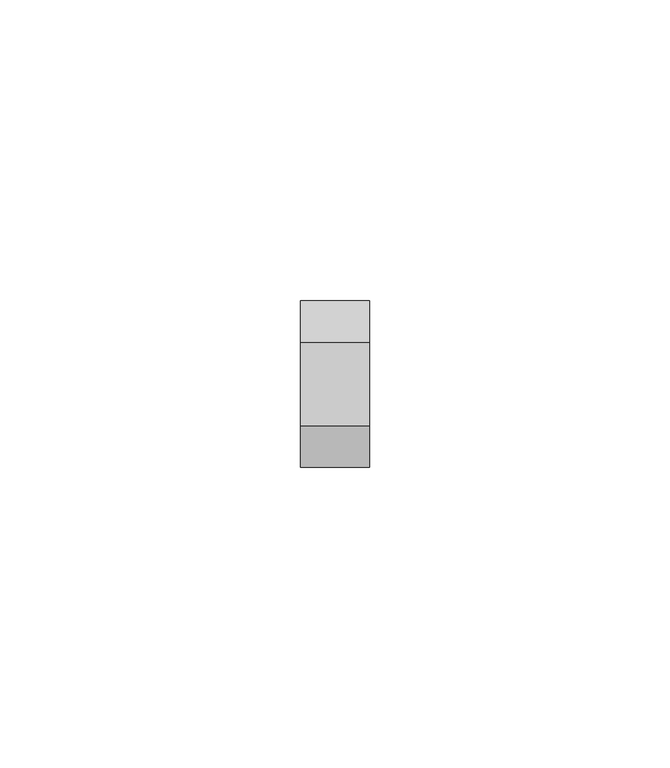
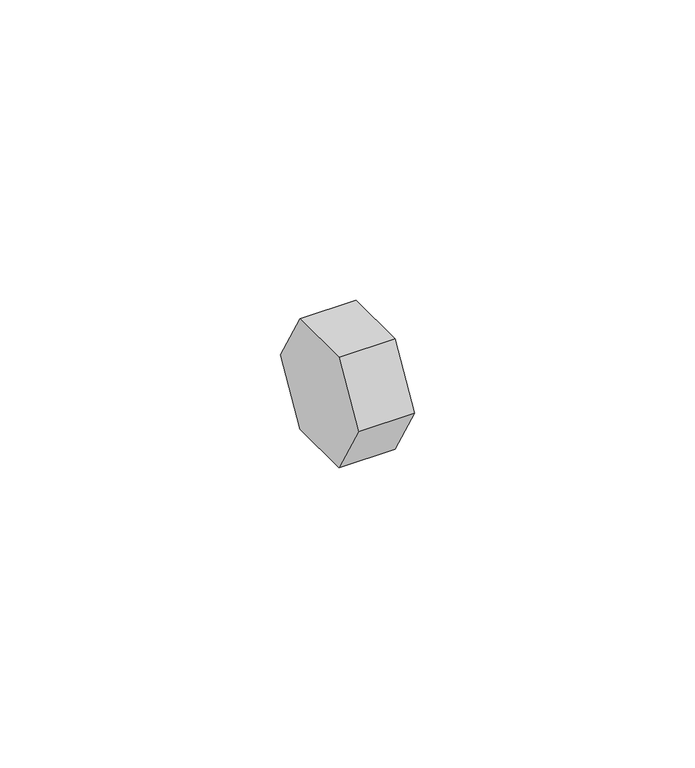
"""IFC4 building model written with IfcOpenShell, lengths in millimetres: pipe fitting geometry, Astra - Tampão Fêmea para Distribuidor - TAPH : Astra - Tampão Fêmea para Distribuidor - TAPH."""

import ifcopenshell
import ifcopenshell.guid

model = None  # the IFC model being written
_history = None  # IfcOwnerHistory: only IFC2X3 demands one
_inside = {}  # id of a spatial element -> (the spatial element, [elements in it])
_under = {}  # id of a project, library or spatial element -> (it, [spatial elements below it])
_declared = {}  # id of a project -> (the project, [libraries it declares])
_typed = {}  # id of a type object -> (the type object, [elements of that type])
_made_of = {}  # id of a material, layer set ... -> (it, [elements and type objects made of it])


def new_model(schema):
    """Start an empty IFC model of exactly this schema.

    Asked for "IFC4X3", IfcOpenShell would pick the latest addendum, in which some entities
    have other attributes; the version numbers below select the first issue.
    IFC2X3 requires an IfcOwnerHistory on every rooted entity: one is made here for all.
    """
    global model, _history
    if schema == "IFC4X3":
        model = ifcopenshell.file(schema_version=(4, 3, 0, 0))
    else:
        model = ifcopenshell.file(schema=schema)
    _inside.clear()
    _under.clear()
    _declared.clear()
    _typed.clear()
    _made_of.clear()
    _history = None
    if model.schema == "IFC2X3":
        org = make("IfcOrganization", Name="unknown")
        user = make(
            "IfcPersonAndOrganization",
            ThePerson=make("IfcPerson", FamilyName="unknown"),
            TheOrganization=org,
        )
        app = make(
            "IfcApplication",
            ApplicationDeveloper=org,
            Version="unknown",
            ApplicationFullName="unknown",
            ApplicationIdentifier="unknown",
        )
        _history = make(
            "IfcOwnerHistory",
            OwningUser=user,
            OwningApplication=app,
            ChangeAction="ADDED",
            CreationDate=0,
        )
    return model


def make(cls, **values):
    """One entity of the class cls with the attributes given. An attribute that is None is left unset."""
    return model.create_entity(
        cls, **{name: value for name, value in values.items() if value is not None}
    )


def rooted(cls, **values):
    """An entity with a GlobalId (a new one), such as an element, a storey or a relation."""
    return make(cls, GlobalId=ifcopenshell.guid.new(), OwnerHistory=_history, **values)


def si_unit(unit_type, name, prefix=None):
    """IfcSIUnit, for example si_unit("LENGTHUNIT", "METRE", prefix="MILLI")."""
    return make("IfcSIUnit", UnitType=unit_type, Prefix=prefix, Name=name)


def assignment(units):
    """IfcUnitAssignment: the units of a project."""
    return None if units is None else make("IfcUnitAssignment", Units=units)


def point(xyz):
    """IfcCartesianPoint."""
    return None if xyz is None else make("IfcCartesianPoint", Coordinates=xyz)


def direction(xyz):
    """IfcDirection."""
    return None if xyz is None else make("IfcDirection", DirectionRatios=xyz)


def frame(location, z_axis=None, x_axis=None):
    """IfcAxis2Placement3D, a coordinate frame: its origin and axes. An axis left out is left unset."""
    return make(
        "IfcAxis2Placement3D",
        Location=point(location),
        Axis=direction(z_axis),
        RefDirection=direction(x_axis),
    )


def origin():
    """The frame at (0, 0, 0) with its axes left unset."""
    return frame((0.0, 0.0, 0.0))


def place(relative_to, where):
    """IfcLocalPlacement: puts the frame where relative to a parent placement (None: the world)."""
    return make(
        "IfcLocalPlacement", PlacementRelTo=relative_to, RelativePlacement=where
    )


def context(
    kind, dimensions, precision=None, world=None, true_north=None, identifier=None
):
    """IfcGeometricRepresentationContext, for example the 3D "Model" context."""
    return make(
        "IfcGeometricRepresentationContext",
        ContextIdentifier=identifier,
        ContextType=kind,
        CoordinateSpaceDimension=dimensions,
        Precision=precision,
        WorldCoordinateSystem=world,
        TrueNorth=true_north,
    )


def project(units=None, contexts=None):
    """IfcProject with its units and contexts."""
    return rooted(
        "IfcProject",
        Name="project",
        RepresentationContexts=contexts,
        UnitsInContext=assignment(units),
    )


def spatial(cls, under=None, at=None, **own):
    """A site, building, storey or space (cls), placed at a placement, below another one or the project."""
    s = rooted(cls, ObjectPlacement=at, **own)
    if under is not None:
        _under.setdefault(under.id(), (under, []))[1].append(s)
    return s


def polyline(points):
    """IfcPolyline through the points."""
    return make("IfcPolyline", Points=[point(p) for p in points])


def circle_curve(where, radius):
    """IfcCircle in the frame where."""
    return make("IfcCircle", Position=where, Radius=radius)


def shape(context_of_items, identifier, shape_type, items):
    """IfcShapeRepresentation: the items that make up one representation, for example the "Body"."""
    return make(
        "IfcShapeRepresentation",
        ContextOfItems=context_of_items,
        RepresentationIdentifier=identifier,
        RepresentationType=shape_type,
        Items=items,
    )


def source(mapping_origin, context_of_items, identifier, shape_type, items):
    """IfcRepresentationMap: a shape defined once, which mapped items show again and again."""
    return make(
        "IfcRepresentationMap",
        MappingOrigin=mapping_origin,
        MappedRepresentation=shape(context_of_items, identifier, shape_type, items),
    )


def transform(
    local_origin,
    x_axis=None,
    y_axis=None,
    z_axis=None,
    scale=None,
    scale2=None,
    scale3=None,
    uniform=True,
):
    """IfcCartesianTransformationOperator3D, or its non-uniform kind. x_axis, y_axis, z_axis: its Axis1, 2, 3."""
    if uniform:
        return make(
            "IfcCartesianTransformationOperator3D",
            Axis1=direction(x_axis),
            Axis2=direction(y_axis),
            LocalOrigin=point(local_origin),
            Scale=scale,
            Axis3=direction(z_axis),
        )
    return make(
        "IfcCartesianTransformationOperator3DnonUniform",
        Axis1=direction(x_axis),
        Axis2=direction(y_axis),
        LocalOrigin=point(local_origin),
        Scale=scale,
        Axis3=direction(z_axis),
        Scale2=scale2,
        Scale3=scale3,
    )


def mapped(mapping_source, mapping_target):
    """IfcMappedItem: shows the shape of a source again, moved by a transform."""
    return make(
        "IfcMappedItem", MappingSource=mapping_source, MappingTarget=mapping_target
    )


def made_of(thing, what):
    """Note that an element or type object is made of a material, layer set ...; save() writes the relation."""
    if what is not None:
        _made_of.setdefault(what.id(), (what, []))[1].append(thing)
    return thing


def element(
    cls,
    number,
    at=None,
    inside=None,
    cuts=None,
    type_object=None,
    material=None,
    context=None,
    identifier="Body",
    shape_type=None,
    held_by="IfcProductDefinitionShape",
    body=None,
    shapes=None,
    **own,
):
    """One element of the class cls, such as IfcWall. Its Tag is "e" and its number.

    at: its placement. inside: the storey or other place that contains it. cuts: it is an
    opening in that element (IfcRelVoidsElement). A single representation is given by context,
    identifier, shape_type and body (its items); several are given by shapes. held_by: the class
    of the entity that holds the representations. save() writes the other relations.
    """
    e = rooted(cls, Tag="e%d" % number, ObjectPlacement=at, **own)
    if body is not None:
        shapes = [shape(context, identifier, shape_type, body)]
    if shapes is not None:
        e.Representation = make(held_by, Representations=shapes)
    if inside is not None:
        _inside.setdefault(inside.id(), (inside, []))[1].append(e)
    if cuts is not None:
        rooted(
            "IfcRelVoidsElement", RelatingBuildingElement=cuts, RelatedOpeningElement=e
        )
    if type_object is not None:
        _typed.setdefault(type_object.id(), (type_object, []))[1].append(e)
    return made_of(e, material)


def aggregate(whole, parts):
    """IfcRelAggregates: a whole, such as a stair, and the parts it consists of."""
    return rooted("IfcRelAggregates", RelatingObject=whole, RelatedObjects=parts)


def save(model, path):
    """Write the relations noted so far, then the file.

    IfcRelAggregates (storeys below a building ...), IfcRelContainedInSpatialStructure (elements
    in a storey), IfcRelDefinesByType, IfcRelAssociatesMaterial and IfcRelDeclares: one each for
    every whole, place, type object, material and project.
    """
    for whole, parts in _under.values():
        aggregate(whole, parts)
    for where, things in _inside.values():
        rooted(
            "IfcRelContainedInSpatialStructure",
            RelatedElements=things,
            RelatingStructure=where,
        )
    for kind, things in _typed.values():
        rooted("IfcRelDefinesByType", RelatedObjects=things, RelatingType=kind)
    for what, things in _made_of.values():
        rooted("IfcRelAssociatesMaterial", RelatedObjects=things, RelatingMaterial=what)
    for by, libraries in _declared.values():
        rooted("IfcRelDeclares", RelatingContext=by, RelatedDefinitions=libraries)
    model.write(path)


def plane_surface(at):
    """IfcPlane: the flat surface through the origin of the frame at, square to its z axis."""
    return make("IfcPlane", Position=at)


def revolved_surface(curve, axis_point, axis_direction):
    """IfcSurfaceOfRevolution: the curve turned about the line through axis_point along axis_direction."""
    return make(
        "IfcSurfaceOfRevolution",
        SweptCurve=make("IfcArbitraryOpenProfileDef", ProfileType="CURVE", Curve=curve),
        AxisPosition=make("IfcAxis1Placement", Location=point(axis_point), Axis=direction(axis_direction)),
    )


def advanced_brep(points, edges, surfaces, faces):
    """IfcAdvancedBrep: a solid bounded by faces that lie on surfaces and meet in shared edges.

    An edge is (start, end): straight between two places in points (the first is 0);
    or (start, end, curve); or (start, end, curve, False) where it runs against its curve.
    A face is (place in surfaces, loops), or (place, loops, False) where it looks against
    its surface's normal. A loop lists edges by number (the first is 1), with a minus sign
    where the edge is run from its end to its start. The first loop is the outer one.
    """
    corners = [point(p) for p in points]
    vertices = [make("IfcVertexPoint", VertexGeometry=c) for c in corners]
    made = []
    for start, end, *more in edges:
        made.append(
            make(
                "IfcEdgeCurve",
                EdgeStart=vertices[start],
                EdgeEnd=vertices[end],
                EdgeGeometry=more[0] if more else make("IfcPolyline", Points=[corners[start], corners[end]]),
                SameSense=more[1] if len(more) > 1 else True,
            )
        )
    hull = []
    for where, loops, *sense in faces:
        bounds = []
        for j, loop in enumerate(loops):
            ring = [make("IfcOrientedEdge", EdgeElement=made[abs(k) - 1], Orientation=k > 0) for k in loop]
            bounds.append(
                make(
                    "IfcFaceOuterBound" if j == 0 else "IfcFaceBound",
                    Bound=make("IfcEdgeLoop", EdgeList=ring),
                    Orientation=True,
                )
            )
        hull.append(make("IfcAdvancedFace", Bounds=bounds, FaceSurface=surfaces[where], SameSense=sense[0] if sense else True))
    return make("IfcAdvancedBrep", Outer=make("IfcClosedShell", CfsFaces=hull))


def pipe_fitting_acc86c9e(model_context):
    return source(origin(), model_context, "Body", "AdvancedBrep", [
        advanced_brep(
        [(5.75, -13.8564065, 0.0), (5.75, -6.9282032, -12.0), (5.75, 6.9282032, -12.0), (5.75, 13.8564065, 0.0), (5.75, 6.9282032, 12.0), (5.75, -6.9282032, 12.0), (5.75, 10.5, 0.0), (5.75, -10.5, 0.0), (-5.75, -13.8564065, 0.0), (-5.75, -6.9282032, 12.0), (-5.75, 6.9282032, 12.0), (-5.75, 13.8564065, 0.0), (-5.75, 6.9282032, -12.0), (-5.75, -6.9282032, -12.0), (5.15, -9.9, 0.0), (5.15, 9.9, 0.0), (-2.25, 9.9, 0.0), (-2.25, -9.9, 0.0), (-2.25, 0.0, 0.0)],
        [
            (0, 1),
            (1, 2),
            (2, 3),
            (3, 4),
            (4, 5),
            (5, 0),
            (6, 7, circle_curve(frame((5.75, 0.0, 0.0), z_axis=(-1.0, 0.0, 0.0), x_axis=(0.0, 1.0, 0.0)), 10.5)),
            (7, 6, circle_curve(frame((5.75, 0.0, 0.0), z_axis=(-1.0, 0.0, 0.0), x_axis=(0.0, 1.0, 0.0)), 10.5)),
            (8, 9),
            (9, 10),
            (10, 11),
            (11, 12),
            (12, 13),
            (13, 8),
            (0, 8),
            (13, 1),
            (12, 2),
            (11, 3),
            (10, 4),
            (9, 5),
            (14, 7),
            (6, 15),
            (15, 14, circle_curve(frame((5.15, 0.0, 0.0), z_axis=(-1.0, 0.0, 0.0), x_axis=(0.0, 1.0, 0.0)), 9.9)),
            (14, 15, circle_curve(frame((5.15, 0.0, 0.0), z_axis=(-1.0, 0.0, 0.0), x_axis=(0.0, 1.0, 0.0)), 9.9)),
            (15, 16),
            (16, 17, circle_curve(frame((-2.25, 0.0, 0.0), z_axis=(-1.0, 0.0, 0.0), x_axis=(0.0, 1.0, 0.0)), 9.9)),
            (17, 14),
            (17, 16, circle_curve(frame((-2.25, 0.0, 0.0), z_axis=(-1.0, 0.0, 0.0), x_axis=(0.0, 1.0, 0.0)), 9.9)),
            (16, 18),
            (18, 17),
        ],
        [
            plane_surface(frame((5.75, -13.8564065, 0.0), z_axis=(1.0, 0.0, 0.0), x_axis=(0.0, 0.5000000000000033, -0.8660254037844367))),
            plane_surface(frame((-5.75, -13.8564065, 0.0), z_axis=(-1.0, 0.0, 0.0), x_axis=(0.0, -0.5000000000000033, 0.8660254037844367))),
            plane_surface(frame((5.75, -13.8564065, 0.0), z_axis=(0.0, -0.8660254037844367, -0.5000000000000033), x_axis=(-1.0, 0.0, 0.0))),
            plane_surface(frame((5.75, -6.9282032, -12.0), z_axis=(0.0, 0.0, -1.0), x_axis=(-1.0, 0.0, 0.0))),
            plane_surface(frame((5.75, 6.9282032, -12.0), z_axis=(0.0, 0.8660254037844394, -0.4999999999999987), x_axis=(-1.0, 0.0, 0.0))),
            plane_surface(frame((5.75, 13.8564065, 0.0), z_axis=(0.0, 0.866025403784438, 0.5000000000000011), x_axis=(-1.0, 0.0, 0.0))),
            plane_surface(frame((5.75, 6.9282032, 12.0), z_axis=(0.0, 0.0, 1.0), x_axis=(-1.0, 0.0, 0.0))),
            plane_surface(frame((5.75, -6.9282032, 12.0), z_axis=(0.0, -0.8660254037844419, 0.4999999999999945), x_axis=(-1.0, 0.0, 0.0))),
            revolved_surface(polyline([(5.15, 9.9, 0.0), (5.75, 10.5, 0.0)]), (-2.25, 0.0, 0.0), (-1.0, 0.0, 0.0)),
            revolved_surface(polyline([(-2.25, 9.9, 0.0), (5.15, 9.9, 0.0)]), (-2.25, 0.0, 0.0), (-1.0, 0.0, 0.0)),
            plane_surface(frame((-2.25, 0.0, 0.0), z_axis=(1.0, 0.0, 0.0), x_axis=(0.0, 1.0, 0.0))),
        ],
        [
            (0, [[1, 2, 3, 4, 5, 6], [7, 8]]),
            (1, [[9, 10, 11, 12, 13, 14]]),
            (2, [[-1, 15, -14, 16]]),
            (3, [[-2, -16, -13, 17]]),
            (4, [[-3, -17, -12, 18]]),
            (5, [[-4, -18, -11, 19]]),
            (6, [[-5, -19, -10, 20]]),
            (7, [[-6, -20, -9, -15]]),
            (8, [[21, -7, 22, 23]]),
            (8, [[-21, 24, -22, -8]]),
            (9, [[-23, 25, 26, 27]]),
            (9, [[-24, -27, 28, -25]]),
            (10, [[-26, 29, 30]]),
            (10, [[-28, -30, -29]]),
        ],
    ),
    ])


if __name__ == "__main__":
    model = new_model("IFC4")
    model_context = context("Model", 3, world=origin())
    ifc_project = project(units=[si_unit("LENGTHUNIT", "METRE", prefix="MILLI")], contexts=[model_context])
    site = spatial("IfcSite", under=ifc_project)
    building = spatial("IfcBuilding", under=site)
    placement = place(None, origin())
    pipe_fitting_shape = pipe_fitting_acc86c9e(model_context)
    element("IfcPipeFitting", 1, ObjectType="Astra - Tampão Fêmea para Distribuidor - TAPH : Astra - Tampão Fêmea para Distribuidor - TAPH", at=placement, inside=building, context=model_context, shape_type="MappedRepresentation", body=[
        mapped(pipe_fitting_shape, transform((0.0, 0.0, 0.0), x_axis=(1.0, 0.0, 0.0), y_axis=(0.0, 1.0, 0.0), z_axis=(0.0, 0.0, 1.0))),
    ])
    save(model, "model.ifc")
